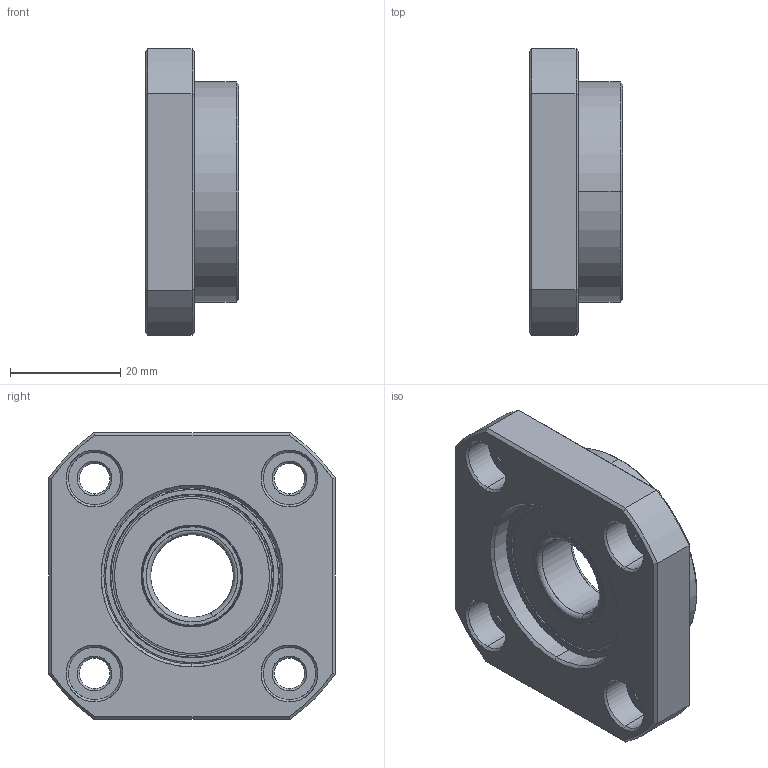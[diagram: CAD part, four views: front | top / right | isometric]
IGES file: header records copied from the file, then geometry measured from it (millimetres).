
Start section: SolidWorks IGES file using analytic representation for surfaces
Bounding box: 17 x 52 x 52 mm (x, y, z)
Surface area: 10611 mm2 (no closed solid volume)
Topology: 0 solids, 0 shells, 135 faces, 1992 edges, 1992 vertices
Faces by surface type: revolution 76, bspline 59
